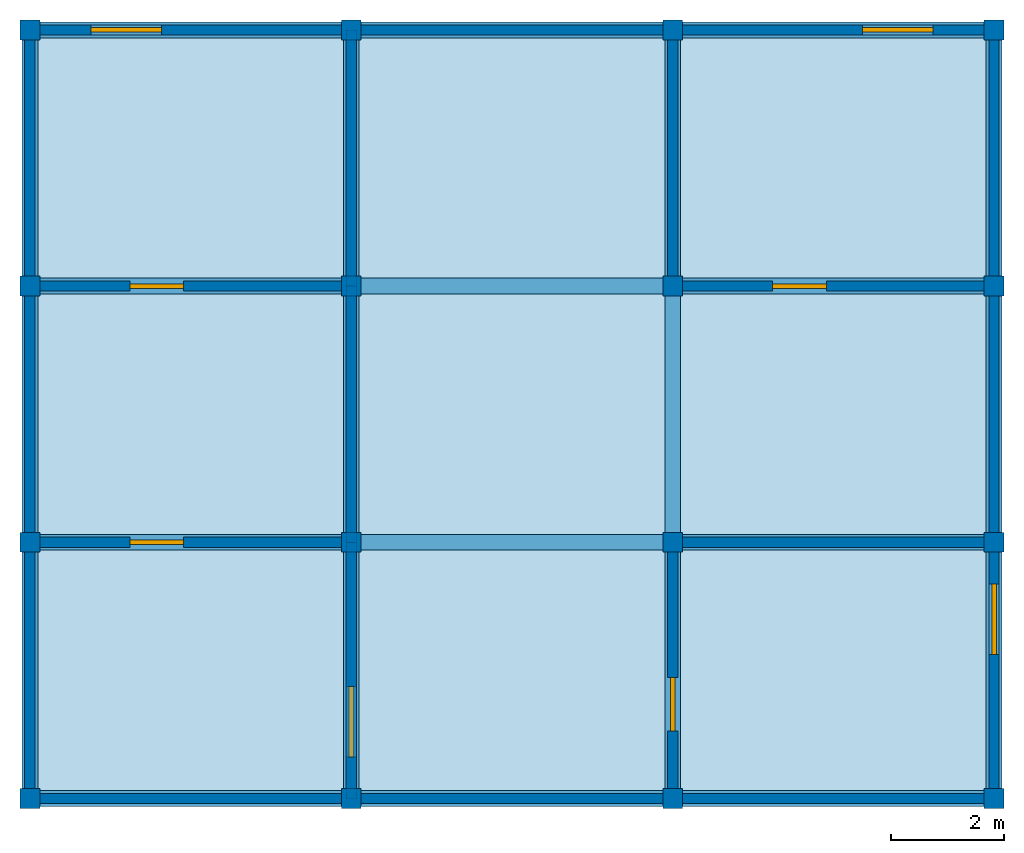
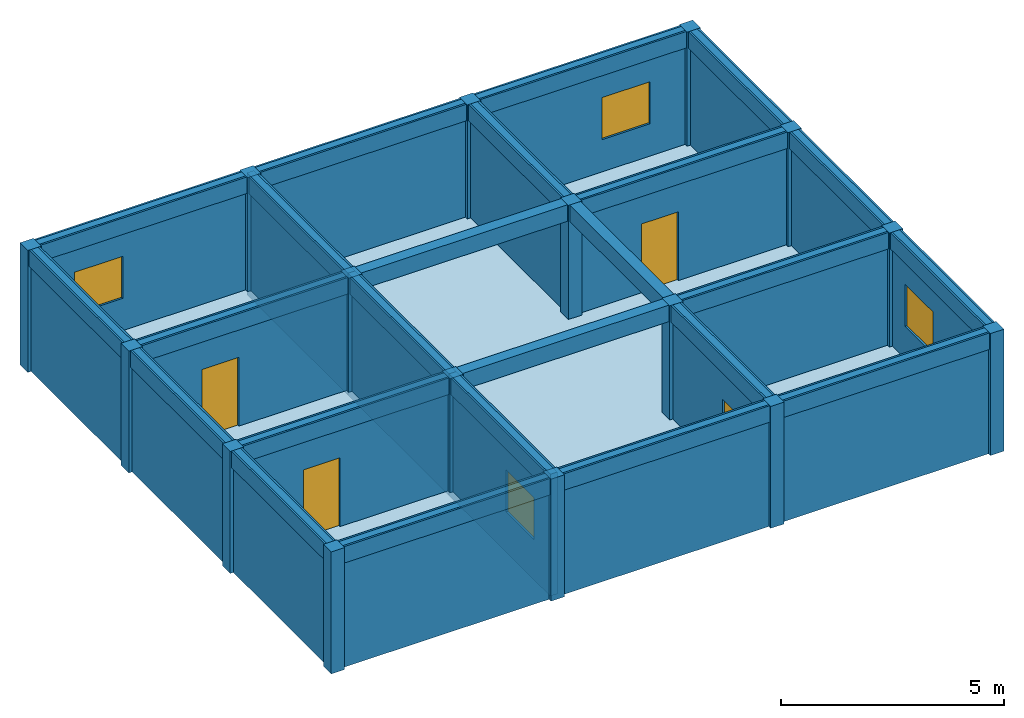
# One storey: 24 beams, 24 walls, 16 columns, 4 doors, 4 windows, 1 slab, 8 openings.
"""IFC4X3 building model written with IfcOpenShell, lengths in metres."""

from ifc_helpers import new_model, si_unit, frame, origin_with_axes, origin_2d, place, context, project, spatial, rectangle, extrude, material, element, fill, save


model = new_model("IFC4X3")

# Units and contexts
model_context = context("Model", 3, precision=1e-05, world=origin_with_axes())
ifc_project = project(units=[si_unit("LENGTHUNIT", "METRE"), si_unit("AREAUNIT", "SQUARE_METRE"), si_unit("VOLUMEUNIT", "CUBIC_METRE")], contexts=[model_context])

# Site, building, storey
site = spatial("IfcSite", under=ifc_project, Name="Valdivia Parcel", CompositionType="ELEMENT")
building = spatial("IfcBuilding", under=site, Name="Strata Block", CompositionType="ELEMENT")
storey = spatial("IfcBuildingStorey", under=building, Name="Level 5", CompositionType="ELEMENT", Elevation=13.34)

# Columns
ifc_material_1 = material(Name="Timber")
for number, where, z_axis, x_axis, name in (
    (1, (-8.525, -6.795, 13.342), (0.0, 0.0, 1.0), (1.0, 0.0, 0.0), "Column 5.1"),
    (2, (-8.525, -2.265, 13.342), (0.0, 0.0, 1.0), (1.0, 0.0, 0.0), "Column 5.2"),
):
    element("IfcColumn", number, at=place(None, frame(where, z_axis=z_axis, x_axis=x_axis)), inside=storey, material=ifc_material_1, Name=name, ObjectType="Corner Column", PredefinedType="USERDEFINED", context=model_context, shape_type="SweptSolid", body=[
        extrude(rectangle(XDim=0.35, YDim=0.35, at=origin_2d()), origin_with_axes(), (0.0, 0.0, 1.0), 3.335),
    ])
column_1_placement = place(None, frame((-8.525, 2.265, 13.342), z_axis=(0.0, 0.0, 1.0), x_axis=(1.0, 0.0, 0.0)))
element("IfcColumn", 3, at=column_1_placement, inside=storey, material=ifc_material_1, Name="Column 5.3", ObjectType="Facade Column", PredefinedType="USERDEFINED", context=model_context, shape_type="SweptSolid", body=[
    extrude(rectangle(XDim=0.35, YDim=0.35, at=origin_2d()), origin_with_axes(), (0.0, 0.0, 1.0), 3.335),
])
column_2_placement = place(None, frame((-8.525, 6.795, 13.342), z_axis=(0.0, 0.0, 1.0), x_axis=(1.0, 0.0, 0.0)))
element("IfcColumn", 4, at=column_2_placement, inside=storey, material=ifc_material_1, Name="Column 5.4", ObjectType="Core Column", PredefinedType="COLUMN", context=model_context, shape_type="SweptSolid", body=[
    extrude(rectangle(XDim=0.35, YDim=0.35, at=origin_2d()), origin_with_axes(), (0.0, 0.0, 1.0), 3.335),
])
column_3_placement = place(None, frame((-2.842, -6.795, 13.342), z_axis=(0.0, 0.0, 1.0), x_axis=(1.0, 0.0, 0.0)))
element("IfcColumn", 5, at=column_3_placement, inside=storey, material=ifc_material_1, Name="Column 5.5", ObjectType="Corner Column", PredefinedType="NOTDEFINED", context=model_context, shape_type="SweptSolid", body=[
    extrude(rectangle(XDim=0.35, YDim=0.35, at=origin_2d()), origin_with_axes(), (0.0, 0.0, 1.0), 3.335),
])
column_4_placement = place(None, frame((-2.842, -2.265, 13.342), z_axis=(0.0, 0.0, 1.0), x_axis=(1.0, 0.0, 0.0)))
element("IfcColumn", 6, at=column_4_placement, inside=storey, material=ifc_material_1, Name="Column 5.6", ObjectType="Corner Column", PredefinedType="PILASTER", context=model_context, shape_type="SweptSolid", body=[
    extrude(rectangle(XDim=0.35, YDim=0.35, at=origin_2d()), origin_with_axes(), (0.0, 0.0, 1.0), 3.335),
])
column_5_placement = place(None, frame((-2.842, 2.265, 13.342), z_axis=(0.0, 0.0, 1.0), x_axis=(1.0, 0.0, 0.0)))
element("IfcColumn", 7, at=column_5_placement, inside=storey, material=ifc_material_1, Name="Column 5.7", ObjectType="Facade Column", PredefinedType="USERDEFINED", context=model_context, shape_type="SweptSolid", body=[
    extrude(rectangle(XDim=0.35, YDim=0.35, at=origin_2d()), origin_with_axes(), (0.0, 0.0, 1.0), 3.335),
])
column_6_placement = place(None, frame((-2.842, 6.795, 13.342), z_axis=(0.0, 0.0, 1.0), x_axis=(1.0, 0.0, 0.0)))
element("IfcColumn", 8, at=column_6_placement, inside=storey, material=ifc_material_1, Name="Column 5.8", ObjectType="Facade Column", PredefinedType="COLUMN", context=model_context, shape_type="SweptSolid", body=[
    extrude(rectangle(XDim=0.35, YDim=0.35, at=origin_2d()), origin_with_axes(), (0.0, 0.0, 1.0), 3.335),
])
column_7_placement = place(None, frame((2.841, -6.795, 13.342), z_axis=(0.0, 0.0, 1.0), x_axis=(1.0, 0.0, 0.0)))
element("IfcColumn", 9, at=column_7_placement, inside=storey, material=ifc_material_1, Name="Column 5.9", ObjectType="Structural Column", PredefinedType="COLUMN", context=model_context, shape_type="SweptSolid", body=[
    extrude(rectangle(XDim=0.35, YDim=0.35, at=origin_2d()), origin_with_axes(), (0.0, 0.0, 1.0), 3.335),
])
column_8_placement = place(None, frame((2.841, -2.265, 13.342), z_axis=(0.0, 0.0, 1.0), x_axis=(1.0, 0.0, 0.0)))
element("IfcColumn", 10, at=column_8_placement, inside=storey, material=ifc_material_1, Name="Column 5.10", ObjectType="Corner Column", PredefinedType="COLUMN", context=model_context, shape_type="SweptSolid", body=[
    extrude(rectangle(XDim=0.35, YDim=0.35, at=origin_2d()), origin_with_axes(), (0.0, 0.0, 1.0), 3.335),
])
column_9_placement = place(None, frame((2.841, 2.265, 13.342), z_axis=(0.0, 0.0, 1.0), x_axis=(1.0, 0.0, 0.0)))
element("IfcColumn", 11, at=column_9_placement, inside=storey, material=ifc_material_1, Name="Column 5.11", ObjectType="Structural Column", PredefinedType="COLUMN", context=model_context, shape_type="SweptSolid", body=[
    extrude(rectangle(XDim=0.35, YDim=0.35, at=origin_2d()), origin_with_axes(), (0.0, 0.0, 1.0), 3.335),
])
column_10_placement = place(None, frame((2.841, 6.795, 13.342), z_axis=(0.0, 0.0, 1.0), x_axis=(1.0, 0.0, 0.0)))
element("IfcColumn", 12, at=column_10_placement, inside=storey, material=ifc_material_1, Name="Column 5.12", ObjectType="Facade Column", PredefinedType="NOTDEFINED", context=model_context, shape_type="SweptSolid", body=[
    extrude(rectangle(XDim=0.35, YDim=0.35, at=origin_2d()), origin_with_axes(), (0.0, 0.0, 1.0), 3.335),
])
column_11_placement = place(None, frame((8.524, -6.795, 13.342), z_axis=(0.0, 0.0, 1.0), x_axis=(1.0, 0.0, 0.0)))
element("IfcColumn", 13, at=column_11_placement, inside=storey, material=ifc_material_1, Name="Column 5.13", ObjectType="Structural Column", PredefinedType="COLUMN", context=model_context, shape_type="SweptSolid", body=[
    extrude(rectangle(XDim=0.35, YDim=0.35, at=origin_2d()), origin_with_axes(), (0.0, 0.0, 1.0), 3.335),
])
column_12_placement = place(None, frame((8.524, -2.265, 13.342), z_axis=(0.0, 0.0, 1.0), x_axis=(1.0, 0.0, 0.0)))
element("IfcColumn", 14, at=column_12_placement, inside=storey, material=ifc_material_1, Name="Column 5.14", ObjectType="Corner Column", PredefinedType="NOTDEFINED", context=model_context, shape_type="SweptSolid", body=[
    extrude(rectangle(XDim=0.35, YDim=0.35, at=origin_2d()), origin_with_axes(), (0.0, 0.0, 1.0), 3.335),
])
column_13_placement = place(None, frame((8.524, 2.265, 13.342), z_axis=(0.0, 0.0, 1.0), x_axis=(1.0, 0.0, 0.0)))
element("IfcColumn", 15, at=column_13_placement, inside=storey, material=ifc_material_1, Name="Column 5.15", ObjectType="Structural Column", PredefinedType="NOTDEFINED", context=model_context, shape_type="SweptSolid", body=[
    extrude(rectangle(XDim=0.35, YDim=0.35, at=origin_2d()), origin_with_axes(), (0.0, 0.0, 1.0), 3.335),
])
column_14_placement = place(None, frame((8.524, 6.795, 13.342), z_axis=(0.0, 0.0, 1.0), x_axis=(1.0, 0.0, 0.0)))
element("IfcColumn", 16, at=column_14_placement, inside=storey, material=ifc_material_1, Name="Column 5.16", ObjectType="Facade Column", PredefinedType="USERDEFINED", context=model_context, shape_type="SweptSolid", body=[
    extrude(rectangle(XDim=0.35, YDim=0.35, at=origin_2d()), origin_with_axes(), (0.0, 0.0, 1.0), 3.335),
])

# Beams
ifc_material_2 = material(Name="Concrete")
beam_1_placement = place(None, frame((-5.684, -6.795, 16.227), z_axis=(0.0, 0.0, 1.0), x_axis=(1.0, 0.0, 0.0)))
element("IfcBeam", 17, at=beam_1_placement, inside=storey, material=ifc_material_2, Name="Beam 5.1", ObjectType="Secondary Beam", PredefinedType="NOTDEFINED", context=model_context, shape_type="SweptSolid", body=[
    extrude(rectangle(XDim=5.683, YDim=0.28, at=origin_2d()), origin_with_axes(), (0.0, 0.0, 1.0), 0.45),
])
beam_2_placement = place(None, frame((0.0, -6.795, 16.227), z_axis=(0.0, 0.0, 1.0), x_axis=(1.0, 0.0, 0.0)))
element("IfcBeam", 18, at=beam_2_placement, inside=storey, material=ifc_material_2, Name="Beam 5.2", ObjectType="Primary Beam", PredefinedType="JOIST", context=model_context, shape_type="SweptSolid", body=[
    extrude(rectangle(XDim=5.683, YDim=0.28, at=origin_2d()), origin_with_axes(), (0.0, 0.0, 1.0), 0.45),
])
beam_3_placement = place(None, frame((5.682, -6.795, 16.227), z_axis=(0.0, 0.0, 1.0), x_axis=(1.0, 0.0, 0.0)))
element("IfcBeam", 19, at=beam_3_placement, inside=storey, material=ifc_material_2, Name="Beam 5.3", ObjectType="Ridge Beam", PredefinedType="T_BEAM", context=model_context, shape_type="SweptSolid", body=[
    extrude(rectangle(XDim=5.683, YDim=0.28, at=origin_2d()), origin_with_axes(), (0.0, 0.0, 1.0), 0.45),
])
beam_4_placement = place(None, frame((-5.684, -2.265, 16.227), z_axis=(0.0, 0.0, 1.0), x_axis=(1.0, 0.0, 0.0)))
element("IfcBeam", 20, at=beam_4_placement, inside=storey, material=ifc_material_2, Name="Beam 5.4", ObjectType="Transfer Beam", PredefinedType="SPANDREL", context=model_context, shape_type="SweptSolid", body=[
    extrude(rectangle(XDim=5.683, YDim=0.28, at=origin_2d()), origin_with_axes(), (0.0, 0.0, 1.0), 0.45),
])
beam_5_placement = place(None, frame((0.0, -2.265, 16.227), z_axis=(0.0, 0.0, 1.0), x_axis=(1.0, 0.0, 0.0)))
element("IfcBeam", 21, at=beam_5_placement, inside=storey, material=ifc_material_2, Name="Beam 5.5", ObjectType="Rafter Beam", PredefinedType="NOTDEFINED", context=model_context, shape_type="SweptSolid", body=[
    extrude(rectangle(XDim=5.683, YDim=0.28, at=origin_2d()), origin_with_axes(), (0.0, 0.0, 1.0), 0.45),
])
beam_6_placement = place(None, frame((5.682, -2.265, 16.227), z_axis=(0.0, 0.0, 1.0), x_axis=(1.0, 0.0, 0.0)))
element("IfcBeam", 22, at=beam_6_placement, inside=storey, material=ifc_material_2, Name="Beam 5.6", ObjectType="Rafter Beam", PredefinedType="T_BEAM", context=model_context, shape_type="SweptSolid", body=[
    extrude(rectangle(XDim=5.683, YDim=0.28, at=origin_2d()), origin_with_axes(), (0.0, 0.0, 1.0), 0.45),
])
beam_7_placement = place(None, frame((-5.684, 2.265, 16.227), z_axis=(0.0, 0.0, 1.0), x_axis=(1.0, 0.0, 0.0)))
element("IfcBeam", 23, at=beam_7_placement, inside=storey, material=ifc_material_2, Name="Beam 5.7", ObjectType="Rafter Beam", PredefinedType="LINTEL", context=model_context, shape_type="SweptSolid", body=[
    extrude(rectangle(XDim=5.683, YDim=0.28, at=origin_2d()), origin_with_axes(), (0.0, 0.0, 1.0), 0.45),
])
for number, where, z_axis, x_axis, name in (
    (24, (0.0, 2.265, 16.227), (0.0, 0.0, 1.0), (1.0, 0.0, 0.0), "Beam 5.8"),
    (25, (5.682, 2.265, 16.227), (0.0, 0.0, 1.0), (1.0, 0.0, 0.0), "Beam 5.9"),
):
    element("IfcBeam", number, at=place(None, frame(where, z_axis=z_axis, x_axis=x_axis)), inside=storey, material=ifc_material_2, Name=name, ObjectType="Ridge Beam", PredefinedType="BEAM", context=model_context, shape_type="SweptSolid", body=[
        extrude(rectangle(XDim=5.683, YDim=0.28, at=origin_2d()), origin_with_axes(), (0.0, 0.0, 1.0), 0.45),
    ])
beam_8_placement = place(None, frame((-5.684, 6.795, 16.227), z_axis=(0.0, 0.0, 1.0), x_axis=(1.0, 0.0, 0.0)))
element("IfcBeam", 26, at=beam_8_placement, inside=storey, material=ifc_material_2, Name="Beam 5.10", ObjectType="Primary Beam", PredefinedType="NOTDEFINED", context=model_context, shape_type="SweptSolid", body=[
    extrude(rectangle(XDim=5.683, YDim=0.28, at=origin_2d()), origin_with_axes(), (0.0, 0.0, 1.0), 0.45),
])
beam_9_placement = place(None, frame((0.0, 6.795, 16.227), z_axis=(0.0, 0.0, 1.0), x_axis=(1.0, 0.0, 0.0)))
element("IfcBeam", 27, at=beam_9_placement, inside=storey, material=ifc_material_2, Name="Beam 5.11", ObjectType="Transfer Beam", PredefinedType="JOIST", context=model_context, shape_type="SweptSolid", body=[
    extrude(rectangle(XDim=5.683, YDim=0.28, at=origin_2d()), origin_with_axes(), (0.0, 0.0, 1.0), 0.45),
])
beam_10_placement = place(None, frame((5.682, 6.795, 16.227), z_axis=(0.0, 0.0, 1.0), x_axis=(1.0, 0.0, 0.0)))
element("IfcBeam", 28, at=beam_10_placement, inside=storey, material=ifc_material_2, Name="Beam 5.12", ObjectType="Transfer Beam", PredefinedType="BEAM", context=model_context, shape_type="SweptSolid", body=[
    extrude(rectangle(XDim=5.683, YDim=0.28, at=origin_2d()), origin_with_axes(), (0.0, 0.0, 1.0), 0.45),
])
beam_11_placement = place(None, frame((-8.525, -4.53, 16.227), z_axis=(0.0, 0.0, 1.0), x_axis=(0.0, 1.0, 0.0)))
element("IfcBeam", 29, at=beam_11_placement, inside=storey, material=ifc_material_2, Name="Beam 5.13", ObjectType="Primary Beam", PredefinedType="SPANDREL", context=model_context, shape_type="SweptSolid", body=[
    extrude(rectangle(XDim=4.53, YDim=0.28, at=origin_2d()), origin_with_axes(), (0.0, 0.0, 1.0), 0.45),
])
beam_12_placement = place(None, frame((-8.525, 0.0, 16.227), z_axis=(0.0, 0.0, 1.0), x_axis=(0.0, 1.0, 0.0)))
element("IfcBeam", 30, at=beam_12_placement, inside=storey, material=ifc_material_2, Name="Beam 5.14", ObjectType="Secondary Beam", PredefinedType="USERDEFINED", context=model_context, shape_type="SweptSolid", body=[
    extrude(rectangle(XDim=4.53, YDim=0.28, at=origin_2d()), origin_with_axes(), (0.0, 0.0, 1.0), 0.45),
])
beam_13_placement = place(None, frame((-8.525, 4.53, 16.227), z_axis=(0.0, 0.0, 1.0), x_axis=(0.0, 1.0, 0.0)))
element("IfcBeam", 31, at=beam_13_placement, inside=storey, material=ifc_material_2, Name="Beam 5.15", ObjectType="Ridge Beam", PredefinedType="SPANDREL", context=model_context, shape_type="SweptSolid", body=[
    extrude(rectangle(XDim=4.53, YDim=0.28, at=origin_2d()), origin_with_axes(), (0.0, 0.0, 1.0), 0.45),
])
beam_14_placement = place(None, frame((-2.842, -4.53, 16.227), z_axis=(0.0, 0.0, 1.0), x_axis=(0.0, 1.0, 0.0)))
element("IfcBeam", 32, at=beam_14_placement, inside=storey, material=ifc_material_2, Name="Beam 5.16", ObjectType="Primary Beam", PredefinedType="NOTDEFINED", context=model_context, shape_type="SweptSolid", body=[
    extrude(rectangle(XDim=4.53, YDim=0.28, at=origin_2d()), origin_with_axes(), (0.0, 0.0, 1.0), 0.45),
])
beam_15_placement = place(None, frame((-2.842, 0.0, 16.227), z_axis=(0.0, 0.0, 1.0), x_axis=(0.0, 1.0, 0.0)))
element("IfcBeam", 33, at=beam_15_placement, inside=storey, material=ifc_material_2, Name="Beam 5.17", ObjectType="Rafter Beam", PredefinedType="NOTDEFINED", context=model_context, shape_type="SweptSolid", body=[
    extrude(rectangle(XDim=4.53, YDim=0.28, at=origin_2d()), origin_with_axes(), (0.0, 0.0, 1.0), 0.45),
])
beam_16_placement = place(None, frame((-2.842, 4.53, 16.227), z_axis=(0.0, 0.0, 1.0), x_axis=(0.0, 1.0, 0.0)))
element("IfcBeam", 34, at=beam_16_placement, inside=storey, material=ifc_material_2, Name="Beam 5.18", ObjectType="Transfer Beam", PredefinedType="LINTEL", context=model_context, shape_type="SweptSolid", body=[
    extrude(rectangle(XDim=4.53, YDim=0.28, at=origin_2d()), origin_with_axes(), (0.0, 0.0, 1.0), 0.45),
])
beam_17_placement = place(None, frame((2.841, -4.53, 16.227), z_axis=(0.0, 0.0, 1.0), x_axis=(0.0, 1.0, 0.0)))
element("IfcBeam", 35, at=beam_17_placement, inside=storey, material=ifc_material_2, Name="Beam 5.19", ObjectType="Secondary Beam", PredefinedType="T_BEAM", context=model_context, shape_type="SweptSolid", body=[
    extrude(rectangle(XDim=4.53, YDim=0.28, at=origin_2d()), origin_with_axes(), (0.0, 0.0, 1.0), 0.45),
])
beam_18_placement = place(None, frame((2.841, 0.0, 16.227), z_axis=(0.0, 0.0, 1.0), x_axis=(0.0, 1.0, 0.0)))
element("IfcBeam", 36, at=beam_18_placement, inside=storey, material=ifc_material_2, Name="Beam 5.20", ObjectType="Secondary Beam", PredefinedType="HOLLOWCORE", context=model_context, shape_type="SweptSolid", body=[
    extrude(rectangle(XDim=4.53, YDim=0.28, at=origin_2d()), origin_with_axes(), (0.0, 0.0, 1.0), 0.45),
])
beam_19_placement = place(None, frame((2.841, 4.53, 16.227), z_axis=(0.0, 0.0, 1.0), x_axis=(0.0, 1.0, 0.0)))
element("IfcBeam", 37, at=beam_19_placement, inside=storey, material=ifc_material_2, Name="Beam 5.21", ObjectType="Ridge Beam", PredefinedType="BEAM", context=model_context, shape_type="SweptSolid", body=[
    extrude(rectangle(XDim=4.53, YDim=0.28, at=origin_2d()), origin_with_axes(), (0.0, 0.0, 1.0), 0.45),
])
beam_20_placement = place(None, frame((8.524, -4.53, 16.227), z_axis=(0.0, 0.0, 1.0), x_axis=(0.0, 1.0, 0.0)))
element("IfcBeam", 38, at=beam_20_placement, inside=storey, material=ifc_material_2, Name="Beam 5.22", ObjectType="Transfer Beam", PredefinedType="HOLLOWCORE", context=model_context, shape_type="SweptSolid", body=[
    extrude(rectangle(XDim=4.53, YDim=0.28, at=origin_2d()), origin_with_axes(), (0.0, 0.0, 1.0), 0.45),
])
beam_21_placement = place(None, frame((8.524, 0.0, 16.227), z_axis=(0.0, 0.0, 1.0), x_axis=(0.0, 1.0, 0.0)))
element("IfcBeam", 39, at=beam_21_placement, inside=storey, material=ifc_material_2, Name="Beam 5.23", ObjectType="Transfer Beam", PredefinedType="JOIST", context=model_context, shape_type="SweptSolid", body=[
    extrude(rectangle(XDim=4.53, YDim=0.28, at=origin_2d()), origin_with_axes(), (0.0, 0.0, 1.0), 0.45),
])
beam_22_placement = place(None, frame((8.524, 4.53, 16.227), z_axis=(0.0, 0.0, 1.0), x_axis=(0.0, 1.0, 0.0)))
element("IfcBeam", 40, at=beam_22_placement, inside=storey, material=ifc_material_2, Name="Beam 5.24", ObjectType="Secondary Beam", PredefinedType="LINTEL", context=model_context, shape_type="SweptSolid", body=[
    extrude(rectangle(XDim=4.53, YDim=0.28, at=origin_2d()), origin_with_axes(), (0.0, 0.0, 1.0), 0.45),
])

# Slab
ifc_material_3 = material(Name="Composite")
slab_placement = place(None, frame((0.0, 0.0, 13.34), z_axis=(0.0, 0.0, 1.0), x_axis=(1.0, 0.0, 0.0)))
element("IfcSlab", 41, at=slab_placement, inside=storey, material=ifc_material_3, Name="Slab 5", ObjectType="Floor Slab", PredefinedType="FLOOR", context=model_context, shape_type="SweptSolid", body=[
    extrude(rectangle(XDim=17.05, YDim=13.59, at=origin_2d()), origin_with_axes(), (0.0, 0.0, 1.0), 0.22),
])

# Wall, opening, door
ifc_material_4 = material(Name="Brick")
wall_1_placement = place(None, frame((-5.684, -2.265, 13.342), z_axis=(0.0, 0.0, 1.0), x_axis=(1.0, 0.0, 0.0)))
wall_1 = element("IfcWall", 42, at=wall_1_placement, inside=storey, material=ifc_material_4, Name="Wall 5.1", ObjectType="Corridor Partition", PredefinedType="PARAPET", context=model_context, shape_type="SweptSolid", body=[
    extrude(rectangle(XDim=5.683, YDim=0.181842, at=origin_2d()), origin_with_axes(), (0.0, 0.0, 1.0), 3.335),
])
opening_1_placement = place(None, frame((-6.284, -2.265, 13.342), z_axis=(0.0, 0.0, 1.0), x_axis=(1.0, 0.0, 0.0)))
opening_1 = element("IfcOpeningElement", 43, at=opening_1_placement, cuts=wall_1, Name="Door opening 5.1", ObjectType="Door Opening", PredefinedType="OPENING", context=model_context, shape_type="SweptSolid", body=[
    extrude(rectangle(XDim=0.95, YDim=0.261842, at=origin_2d()), origin_with_axes(), (0.0, 0.0, 1.0), 2.1),
])
door_1_placement = place(None, frame((-6.284, -2.265, 13.342), z_axis=(0.0, 0.0, 1.0), x_axis=(1.0, 0.0, 0.0)))
door_1 = element("IfcDoor", 44, at=door_1_placement, inside=storey, Name="Door 5.1", ObjectType="Entry Door", OverallHeight=2.1, OverallWidth=0.95, context=model_context, shape_type="SweptSolid", body=[
    extrude(rectangle(XDim=0.95, YDim=0.08, at=origin_2d()), origin_with_axes(), (0.0, 0.0, 1.0), 2.1),
])
fill(opening_1, door_1)

# Wall, opening, window
wall_2_placement = place(None, frame((-2.8425, -4.53, 13.342), z_axis=(0.0, 0.0, 1.0), x_axis=(0.0, 1.0, 0.0)))
wall_2 = element("IfcWall", 45, at=wall_2_placement, inside=storey, material=ifc_material_2, Name="Wall 5.2", ObjectType="Exterior Wall", PredefinedType="NOTDEFINED", context=model_context, shape_type="SweptSolid", body=[
    extrude(rectangle(XDim=4.53, YDim=0.181842, at=origin_2d()), origin_with_axes(), (0.0, 0.0, 1.0), 3.335),
])
opening_2_placement = place(None, frame((-2.843, -5.436, 14.442), z_axis=(0.0, 0.0, 1.0), x_axis=(0.0, 1.0, 0.0)))
opening_2 = element("IfcOpeningElement", 46, at=opening_2_placement, cuts=wall_2, Name="Window opening 5.2", ObjectType="Window Opening", PredefinedType="OPENING", context=model_context, shape_type="SweptSolid", body=[
    extrude(rectangle(XDim=1.25, YDim=0.261842, at=origin_2d()), origin_with_axes(), (0.0, 0.0, 1.0), 1.15),
])
window_1_placement = place(None, frame((-2.843, -5.436, 14.442), z_axis=(0.0, 0.0, 1.0), x_axis=(0.0, 1.0, 0.0)))
window_1 = element("IfcWindow", 47, at=window_1_placement, inside=storey, Name="Window 5.2", ObjectType="Fixed Window", OverallHeight=1.15, OverallWidth=1.25, context=model_context, shape_type="SweptSolid", body=[
    extrude(rectangle(XDim=1.25, YDim=0.08, at=origin_2d()), origin_with_axes(), (0.0, 0.0, 1.0), 1.15),
])
fill(opening_2, window_1)

# Walls
wall_3_placement = place(None, frame((-5.684, -6.795, 13.342), z_axis=(0.0, 0.0, 1.0), x_axis=(1.0, 0.0, 0.0)))
element("IfcWall", 48, at=wall_3_placement, inside=storey, material=ifc_material_2, Name="Wall 5.3", ObjectType="Exterior Wall", PredefinedType="POLYGONAL", context=model_context, shape_type="SweptSolid", body=[
    extrude(rectangle(XDim=5.683, YDim=0.181842, at=origin_2d()), origin_with_axes(), (0.0, 0.0, 1.0), 3.335),
])
wall_4_placement = place(None, frame((-8.5255, -4.53, 13.342), z_axis=(0.0, 0.0, 1.0), x_axis=(0.0, 1.0, 0.0)))
element("IfcWall", 49, at=wall_4_placement, inside=storey, material=ifc_material_2, Name="Wall 5.4", ObjectType="Exterior Wall", PredefinedType="POLYGONAL", context=model_context, shape_type="SweptSolid", body=[
    extrude(rectangle(XDim=4.53, YDim=0.181842, at=origin_2d()), origin_with_axes(), (0.0, 0.0, 1.0), 3.335),
])

# Wall, opening, door
ifc_material_5 = material(Name="Gypsum")
wall_5_placement = place(None, frame((2.8405, -4.53, 13.342), z_axis=(0.0, 0.0, 1.0), x_axis=(0.0, 1.0, 0.0)))
wall_5 = element("IfcWall", 50, at=wall_5_placement, inside=storey, material=ifc_material_5, Name="Wall 5.5", ObjectType="Corridor Partition", PredefinedType="PLUMBINGWALL", context=model_context, shape_type="SweptSolid", body=[
    extrude(rectangle(XDim=4.53, YDim=0.181842, at=origin_2d()), origin_with_axes(), (0.0, 0.0, 1.0), 3.335),
])
opening_3_placement = place(None, frame((2.841, -5.13, 13.342), z_axis=(0.0, 0.0, 1.0), x_axis=(0.0, 1.0, 0.0)))
opening_3 = element("IfcOpeningElement", 51, at=opening_3_placement, cuts=wall_5, Name="Door opening 5.3", ObjectType="Door Opening", PredefinedType="OPENING", context=model_context, shape_type="SweptSolid", body=[
    extrude(rectangle(XDim=0.95, YDim=0.261842, at=origin_2d()), origin_with_axes(), (0.0, 0.0, 1.0), 2.1),
])
door_2_placement = place(None, frame((2.841, -5.13, 13.342), z_axis=(0.0, 0.0, 1.0), x_axis=(0.0, 1.0, 0.0)))
door_2 = element("IfcDoor", 52, at=door_2_placement, inside=storey, Name="Door 5.3", ObjectType="Entry Door", OverallHeight=2.1, OverallWidth=0.95, context=model_context, shape_type="SweptSolid", body=[
    extrude(rectangle(XDim=0.95, YDim=0.08, at=origin_2d()), origin_with_axes(), (0.0, 0.0, 1.0), 2.1),
])
fill(opening_3, door_2)

# Walls
wall_6_placement = place(None, frame((-0.001, -6.795, 13.342), z_axis=(0.0, 0.0, 1.0), x_axis=(1.0, 0.0, 0.0)))
element("IfcWall", 53, at=wall_6_placement, inside=storey, material=ifc_material_5, Name="Wall 5.6", ObjectType="Exterior Wall", PredefinedType="PLUMBINGWALL", context=model_context, shape_type="SweptSolid", body=[
    extrude(rectangle(XDim=5.683, YDim=0.181842, at=origin_2d()), origin_with_axes(), (0.0, 0.0, 1.0), 3.335),
])
ifc_material_6 = material(Name="CLT")
wall_7_placement = place(None, frame((-2.8425, -4.53, 13.342), z_axis=(0.0, 0.0, 1.0), x_axis=(0.0, 1.0, 0.0)))
element("IfcWall", 54, at=wall_7_placement, inside=storey, material=ifc_material_6, Name="Wall 5.7", ObjectType="Exterior Wall", PredefinedType="POLYGONAL", context=model_context, shape_type="SweptSolid", body=[
    extrude(rectangle(XDim=4.53, YDim=0.181842, at=origin_2d()), origin_with_axes(), (0.0, 0.0, 1.0), 3.335),
])
wall_8_placement = place(None, frame((5.682, -2.265, 13.342), z_axis=(0.0, 0.0, 1.0), x_axis=(1.0, 0.0, 0.0)))
element("IfcWall", 55, at=wall_8_placement, inside=storey, material=ifc_material_4, Name="Wall 5.8", ObjectType="Corridor Partition", PredefinedType="ELEMENTEDWALL", context=model_context, shape_type="SweptSolid", body=[
    extrude(rectangle(XDim=5.683, YDim=0.181842, at=origin_2d()), origin_with_axes(), (0.0, 0.0, 1.0), 3.335),
])

# Wall, opening, window
wall_9_placement = place(None, frame((8.5235, -4.53, 13.342), z_axis=(0.0, 0.0, 1.0), x_axis=(0.0, 1.0, 0.0)))
wall_9 = element("IfcWall", 56, at=wall_9_placement, inside=storey, material=ifc_material_6, Name="Wall 5.9", ObjectType="Exterior Wall", PredefinedType="POLYGONAL", context=model_context, shape_type="SweptSolid", body=[
    extrude(rectangle(XDim=4.53, YDim=0.181842, at=origin_2d()), origin_with_axes(), (0.0, 0.0, 1.0), 3.335),
])
opening_4_placement = place(None, frame((8.524, -3.624, 14.442), z_axis=(0.0, 0.0, 1.0), x_axis=(0.0, 1.0, 0.0)))
opening_4 = element("IfcOpeningElement", 57, at=opening_4_placement, cuts=wall_9, Name="Window opening 5.4", ObjectType="Window Opening", PredefinedType="OPENING", context=model_context, shape_type="SweptSolid", body=[
    extrude(rectangle(XDim=1.25, YDim=0.261842, at=origin_2d()), origin_with_axes(), (0.0, 0.0, 1.0), 1.15),
])
window_2_placement = place(None, frame((8.524, -3.624, 14.442), z_axis=(0.0, 0.0, 1.0), x_axis=(0.0, 1.0, 0.0)))
window_2 = element("IfcWindow", 58, at=window_2_placement, inside=storey, Name="Window 5.4", ObjectType="Operable Window", OverallHeight=1.15, OverallWidth=1.25, context=model_context, shape_type="SweptSolid", body=[
    extrude(rectangle(XDim=1.25, YDim=0.08, at=origin_2d()), origin_with_axes(), (0.0, 0.0, 1.0), 1.15),
])
fill(opening_4, window_2)

# Wall
wall_10_placement = place(None, frame((5.682, -6.795, 13.342), z_axis=(0.0, 0.0, 1.0), x_axis=(1.0, 0.0, 0.0)))
element("IfcWall", 59, at=wall_10_placement, inside=storey, material=ifc_material_5, Name="Wall 5.10", ObjectType="Exterior Wall", PredefinedType="POLYGONAL", context=model_context, shape_type="SweptSolid", body=[
    extrude(rectangle(XDim=5.683, YDim=0.181842, at=origin_2d()), origin_with_axes(), (0.0, 0.0, 1.0), 3.335),
])

# Wall, opening, door
wall_11_placement = place(None, frame((-5.684, 2.265, 13.342), z_axis=(0.0, 0.0, 1.0), x_axis=(1.0, 0.0, 0.0)))
wall_11 = element("IfcWall", 60, at=wall_11_placement, inside=storey, material=ifc_material_4, Name="Wall 5.11", ObjectType="Corridor Partition", PredefinedType="ELEMENTEDWALL", context=model_context, shape_type="SweptSolid", body=[
    extrude(rectangle(XDim=5.683, YDim=0.181842, at=origin_2d()), origin_with_axes(), (0.0, 0.0, 1.0), 3.335),
])
opening_5_placement = place(None, frame((-6.284, 2.265, 13.342), z_axis=(0.0, 0.0, 1.0), x_axis=(1.0, 0.0, 0.0)))
opening_5 = element("IfcOpeningElement", 61, at=opening_5_placement, cuts=wall_11, Name="Door opening 5.5", ObjectType="Door Opening", PredefinedType="OPENING", context=model_context, shape_type="SweptSolid", body=[
    extrude(rectangle(XDim=0.95, YDim=0.261842, at=origin_2d()), origin_with_axes(), (0.0, 0.0, 1.0), 2.1),
])
door_3_placement = place(None, frame((-6.284, 2.265, 13.342), z_axis=(0.0, 0.0, 1.0), x_axis=(1.0, 0.0, 0.0)))
door_3 = element("IfcDoor", 62, at=door_3_placement, inside=storey, Name="Door 5.5", ObjectType="Entry Door", OverallHeight=2.1, OverallWidth=0.95, context=model_context, shape_type="SweptSolid", body=[
    extrude(rectangle(XDim=0.95, YDim=0.08, at=origin_2d()), origin_with_axes(), (0.0, 0.0, 1.0), 2.1),
])
fill(opening_5, door_3)

# Walls
wall_12_placement = place(None, frame((-2.8425, 0.0, 13.342), z_axis=(0.0, 0.0, 1.0), x_axis=(0.0, 1.0, 0.0)))
element("IfcWall", 63, at=wall_12_placement, inside=storey, material=ifc_material_2, Name="Wall 5.12", ObjectType="Exterior Wall", PredefinedType="PARAPET", context=model_context, shape_type="SweptSolid", body=[
    extrude(rectangle(XDim=4.53, YDim=0.181842, at=origin_2d()), origin_with_axes(), (0.0, 0.0, 1.0), 3.335),
])
wall_13_placement = place(None, frame((-8.5255, 0.0, 13.342), z_axis=(0.0, 0.0, 1.0), x_axis=(0.0, 1.0, 0.0)))
element("IfcWall", 64, at=wall_13_placement, inside=storey, material=ifc_material_4, Name="Wall 5.13", ObjectType="Exterior Wall", PredefinedType="SHEAR", context=model_context, shape_type="SweptSolid", body=[
    extrude(rectangle(XDim=4.53, YDim=0.181842, at=origin_2d()), origin_with_axes(), (0.0, 0.0, 1.0), 3.335),
])
wall_14_placement = place(None, frame((-2.8425, 0.0, 13.342), z_axis=(0.0, 0.0, 1.0), x_axis=(0.0, 1.0, 0.0)))
element("IfcWall", 65, at=wall_14_placement, inside=storey, material=ifc_material_6, Name="Wall 5.14", ObjectType="Exterior Wall", PredefinedType="STANDARD", context=model_context, shape_type="SweptSolid", body=[
    extrude(rectangle(XDim=4.53, YDim=0.181842, at=origin_2d()), origin_with_axes(), (0.0, 0.0, 1.0), 3.335),
])

# Wall, opening, door
wall_15_placement = place(None, frame((5.682, 2.265, 13.342), z_axis=(0.0, 0.0, 1.0), x_axis=(1.0, 0.0, 0.0)))
wall_15 = element("IfcWall", 66, at=wall_15_placement, inside=storey, material=ifc_material_6, Name="Wall 5.15", ObjectType="Corridor Partition", PredefinedType="ELEMENTEDWALL", context=model_context, shape_type="SweptSolid", body=[
    extrude(rectangle(XDim=5.683, YDim=0.181842, at=origin_2d()), origin_with_axes(), (0.0, 0.0, 1.0), 3.335),
])
opening_6_placement = place(None, frame((5.082, 2.265, 13.342), z_axis=(0.0, 0.0, 1.0), x_axis=(1.0, 0.0, 0.0)))
opening_6 = element("IfcOpeningElement", 67, at=opening_6_placement, cuts=wall_15, Name="Door opening 5.7", ObjectType="Door Opening", PredefinedType="OPENING", context=model_context, shape_type="SweptSolid", body=[
    extrude(rectangle(XDim=0.95, YDim=0.261842, at=origin_2d()), origin_with_axes(), (0.0, 0.0, 1.0), 2.1),
])
door_4_placement = place(None, frame((5.082, 2.265, 13.342), z_axis=(0.0, 0.0, 1.0), x_axis=(1.0, 0.0, 0.0)))
door_4 = element("IfcDoor", 68, at=door_4_placement, inside=storey, Name="Door 5.7", ObjectType="Interior Door", OverallHeight=2.1, OverallWidth=0.95, context=model_context, shape_type="SweptSolid", body=[
    extrude(rectangle(XDim=0.95, YDim=0.08, at=origin_2d()), origin_with_axes(), (0.0, 0.0, 1.0), 2.1),
])
fill(opening_6, door_4)

# Wall
wall_16_placement = place(None, frame((8.5235, 0.0, 13.342), z_axis=(0.0, 0.0, 1.0), x_axis=(0.0, 1.0, 0.0)))
element("IfcWall", 69, at=wall_16_placement, inside=storey, material=ifc_material_4, Name="Wall 5.16", ObjectType="Exterior Wall", PredefinedType="USERDEFINED", context=model_context, shape_type="SweptSolid", body=[
    extrude(rectangle(XDim=4.53, YDim=0.181842, at=origin_2d()), origin_with_axes(), (0.0, 0.0, 1.0), 3.335),
])

# Wall, opening, window
wall_17_placement = place(None, frame((-5.684, 6.795, 13.342), z_axis=(0.0, 0.0, 1.0), x_axis=(1.0, 0.0, 0.0)))
wall_17 = element("IfcWall", 70, at=wall_17_placement, inside=storey, material=ifc_material_5, Name="Wall 5.17", ObjectType="Exterior Wall", PredefinedType="MOVABLE", context=model_context, shape_type="SweptSolid", body=[
    extrude(rectangle(XDim=5.683, YDim=0.181842, at=origin_2d()), origin_with_axes(), (0.0, 0.0, 1.0), 3.335),
])
opening_7_placement = place(None, frame((-6.821, 6.795, 14.442), z_axis=(0.0, 0.0, 1.0), x_axis=(1.0, 0.0, 0.0)))
opening_7 = element("IfcOpeningElement", 71, at=opening_7_placement, cuts=wall_17, Name="Window opening 5.6", ObjectType="Window Opening", PredefinedType="OPENING", context=model_context, shape_type="SweptSolid", body=[
    extrude(rectangle(XDim=1.25, YDim=0.261842, at=origin_2d()), origin_with_axes(), (0.0, 0.0, 1.0), 1.15),
])
window_3_placement = place(None, frame((-6.821, 6.795, 14.442), z_axis=(0.0, 0.0, 1.0), x_axis=(1.0, 0.0, 0.0)))
window_3 = element("IfcWindow", 72, at=window_3_placement, inside=storey, Name="Window 5.6", ObjectType="Sliding Window", OverallHeight=1.15, OverallWidth=1.25, context=model_context, shape_type="SweptSolid", body=[
    extrude(rectangle(XDim=1.25, YDim=0.08, at=origin_2d()), origin_with_axes(), (0.0, 0.0, 1.0), 1.15),
])
fill(opening_7, window_3)

# Walls
wall_18_placement = place(None, frame((-2.8425, 4.53, 13.342), z_axis=(0.0, 0.0, 1.0), x_axis=(0.0, 1.0, 0.0)))
element("IfcWall", 73, at=wall_18_placement, inside=storey, material=ifc_material_5, Name="Wall 5.18", ObjectType="Exterior Wall", PredefinedType="POLYGONAL", context=model_context, shape_type="SweptSolid", body=[
    extrude(rectangle(XDim=4.53, YDim=0.181842, at=origin_2d()), origin_with_axes(), (0.0, 0.0, 1.0), 3.335),
])
wall_19_placement = place(None, frame((-8.5255, 4.53, 13.342), z_axis=(0.0, 0.0, 1.0), x_axis=(0.0, 1.0, 0.0)))
element("IfcWall", 74, at=wall_19_placement, inside=storey, material=ifc_material_2, Name="Wall 5.19", ObjectType="Exterior Wall", PredefinedType="SOLIDWALL", context=model_context, shape_type="SweptSolid", body=[
    extrude(rectangle(XDim=4.53, YDim=0.181842, at=origin_2d()), origin_with_axes(), (0.0, 0.0, 1.0), 3.335),
])
wall_20_placement = place(None, frame((-0.001, 6.795, 13.342), z_axis=(0.0, 0.0, 1.0), x_axis=(1.0, 0.0, 0.0)))
element("IfcWall", 75, at=wall_20_placement, inside=storey, material=ifc_material_2, Name="Wall 5.20", ObjectType="Exterior Wall", PredefinedType="MOVABLE", context=model_context, shape_type="SweptSolid", body=[
    extrude(rectangle(XDim=5.683, YDim=0.181842, at=origin_2d()), origin_with_axes(), (0.0, 0.0, 1.0), 3.335),
])
wall_21_placement = place(None, frame((2.8405, 4.53, 13.342), z_axis=(0.0, 0.0, 1.0), x_axis=(0.0, 1.0, 0.0)))
element("IfcWall", 76, at=wall_21_placement, inside=storey, material=ifc_material_4, Name="Wall 5.21", ObjectType="Corridor Partition", PredefinedType="PLUMBINGWALL", context=model_context, shape_type="SweptSolid", body=[
    extrude(rectangle(XDim=4.53, YDim=0.181842, at=origin_2d()), origin_with_axes(), (0.0, 0.0, 1.0), 3.335),
])
wall_22_placement = place(None, frame((-2.8425, 4.53, 13.342), z_axis=(0.0, 0.0, 1.0), x_axis=(0.0, 1.0, 0.0)))
element("IfcWall", 77, at=wall_22_placement, inside=storey, material=ifc_material_4, Name="Wall 5.22", ObjectType="Exterior Wall", PredefinedType="ELEMENTEDWALL", context=model_context, shape_type="SweptSolid", body=[
    extrude(rectangle(XDim=4.53, YDim=0.181842, at=origin_2d()), origin_with_axes(), (0.0, 0.0, 1.0), 3.335),
])

# Wall, opening, window
wall_23_placement = place(None, frame((5.682, 6.795, 13.342), z_axis=(0.0, 0.0, 1.0), x_axis=(1.0, 0.0, 0.0)))
wall_23 = element("IfcWall", 78, at=wall_23_placement, inside=storey, material=ifc_material_4, Name="Wall 5.23", ObjectType="Exterior Wall", PredefinedType="USERDEFINED", context=model_context, shape_type="SweptSolid", body=[
    extrude(rectangle(XDim=5.683, YDim=0.181842, at=origin_2d()), origin_with_axes(), (0.0, 0.0, 1.0), 3.335),
])
opening_8_placement = place(None, frame((6.819, 6.795, 14.442), z_axis=(0.0, 0.0, 1.0), x_axis=(1.0, 0.0, 0.0)))
opening_8 = element("IfcOpeningElement", 79, at=opening_8_placement, cuts=wall_23, Name="Window opening 5.8", ObjectType="Window Opening", PredefinedType="OPENING", context=model_context, shape_type="SweptSolid", body=[
    extrude(rectangle(XDim=1.25, YDim=0.261842, at=origin_2d()), origin_with_axes(), (0.0, 0.0, 1.0), 1.15),
])
window_4_placement = place(None, frame((6.819, 6.795, 14.442), z_axis=(0.0, 0.0, 1.0), x_axis=(1.0, 0.0, 0.0)))
window_4 = element("IfcWindow", 80, at=window_4_placement, inside=storey, Name="Window 5.8", ObjectType="Fixed Window", OverallHeight=1.15, OverallWidth=1.25, context=model_context, shape_type="SweptSolid", body=[
    extrude(rectangle(XDim=1.25, YDim=0.08, at=origin_2d()), origin_with_axes(), (0.0, 0.0, 1.0), 1.15),
])
fill(opening_8, window_4)

# Wall
wall_24_placement = place(None, frame((8.5235, 4.53, 13.342), z_axis=(0.0, 0.0, 1.0), x_axis=(0.0, 1.0, 0.0)))
element("IfcWall", 81, at=wall_24_placement, inside=storey, material=ifc_material_6, Name="Wall 5.24", ObjectType="Exterior Wall", PredefinedType="STANDARD", context=model_context, shape_type="SweptSolid", body=[
    extrude(rectangle(XDim=4.53, YDim=0.181842, at=origin_2d()), origin_with_axes(), (0.0, 0.0, 1.0), 3.335),
])

save(model, "model.ifc")
